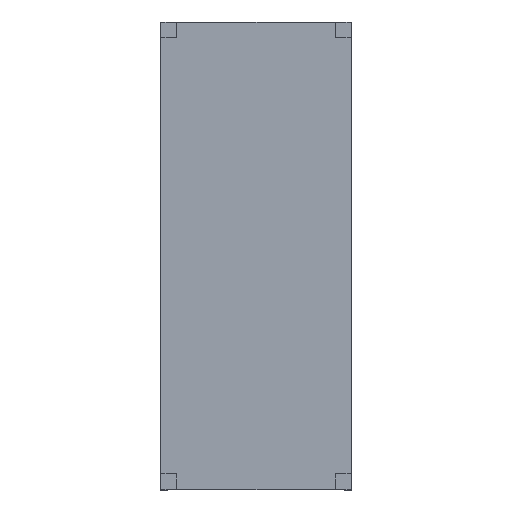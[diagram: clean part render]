
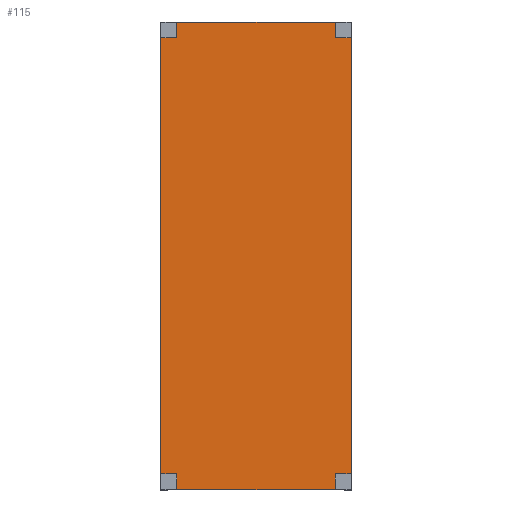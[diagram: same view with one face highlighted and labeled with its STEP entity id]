
A CAD part, top view. The second image highlights one B-rep face of the part: STEP entity #115.
In plain terms, the highlighted planar face has unit normal (0, 0, 1).
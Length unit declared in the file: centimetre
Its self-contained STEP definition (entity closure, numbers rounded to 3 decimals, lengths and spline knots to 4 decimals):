
#115=ADVANCED_FACE('',(#242),#2064,.T.);
#242=FACE_OUTER_BOUND('',#369,.T.);
#369=EDGE_LOOP('',(#496,#497,#498,#499,#500,#501,#502,#503,#504,#505,#506,
#507));
#496=ORIENTED_EDGE('',*,*,#1098,.T.);
#497=ORIENTED_EDGE('',*,*,#1095,.F.);
#498=ORIENTED_EDGE('',*,*,#1104,.F.);
#499=ORIENTED_EDGE('',*,*,#1100,.F.);
#500=ORIENTED_EDGE('',*,*,#1105,.T.);
#501=ORIENTED_EDGE('',*,*,#1097,.T.);
#502=ORIENTED_EDGE('',*,*,#1101,.T.);
#503=ORIENTED_EDGE('',*,*,#1091,.F.);
#504=ORIENTED_EDGE('',*,*,#1102,.F.);
#505=ORIENTED_EDGE('',*,*,#1099,.T.);
#506=ORIENTED_EDGE('',*,*,#1103,.T.);
#507=ORIENTED_EDGE('',*,*,#1093,.T.);
#1091=EDGE_CURVE('',#1791,#1805,#1617,.T.);
#1093=EDGE_CURVE('',#1793,#1798,#1619,.T.);
#1095=EDGE_CURVE('',#1795,#1799,#1621,.T.);
#1097=EDGE_CURVE('',#1797,#1804,#1623,.T.);
#1098=EDGE_CURVE('',#1798,#1799,#1624,.T.);
#1099=EDGE_CURVE('',#1800,#1801,#1625,.T.);
#1100=EDGE_CURVE('',#1802,#1803,#1626,.T.);
#1101=EDGE_CURVE('',#1804,#1805,#1627,.T.);
#1102=EDGE_CURVE('',#1800,#1791,#1628,.T.);
#1103=EDGE_CURVE('',#1801,#1793,#1629,.T.);
#1104=EDGE_CURVE('',#1803,#1795,#1630,.T.);
#1105=EDGE_CURVE('',#1802,#1797,#1631,.T.);
#1617=B_SPLINE_CURVE_WITH_KNOTS('',1,(#2363,#2364),.UNSPECIFIED.,.F.,.F.,
(2,2),(-75.,-1.),.UNSPECIFIED.);
#1619=B_SPLINE_CURVE_WITH_KNOTS('',1,(#2367,#2368),.UNSPECIFIED.,.F.,.F.,
(2,2),(-75.,-1.),.UNSPECIFIED.);
#1621=B_SPLINE_CURVE_WITH_KNOTS('',1,(#2371,#2372),.UNSPECIFIED.,.F.,.F.,
(2,2),(-75.,-1.),.UNSPECIFIED.);
#1623=B_SPLINE_CURVE_WITH_KNOTS('',1,(#2375,#2376),.UNSPECIFIED.,.F.,.F.,
(2,2),(-75.,-1.),.UNSPECIFIED.);
#1624=B_SPLINE_CURVE_WITH_KNOTS('',1,(#2377,#2378),.UNSPECIFIED.,.F.,.F.,
(2,2),(0.,205.),.UNSPECIFIED.);
#1625=B_SPLINE_CURVE_WITH_KNOTS('',1,(#2379,#2380),.UNSPECIFIED.,.F.,.F.,
(2,2),(0.,74.7754),.UNSPECIFIED.);
#1626=B_SPLINE_CURVE_WITH_KNOTS('',1,(#2381,#2382),.UNSPECIFIED.,.F.,.F.,
(2,2),(0.,74.7754),.UNSPECIFIED.);
#1627=B_SPLINE_CURVE_WITH_KNOTS('',1,(#2383,#2384),.UNSPECIFIED.,.F.,.F.,
(2,2),(0.,205.),.UNSPECIFIED.);
#1628=B_SPLINE_CURVE_WITH_KNOTS('',1,(#2385,#2386),.UNSPECIFIED.,.F.,.F.,
(2,2),(-149.,-75.),.UNSPECIFIED.);
#1629=B_SPLINE_CURVE_WITH_KNOTS('',1,(#2387,#2388),.UNSPECIFIED.,.F.,.F.,
(2,2),(-149.,-75.),.UNSPECIFIED.);
#1630=B_SPLINE_CURVE_WITH_KNOTS('',1,(#2389,#2390),.UNSPECIFIED.,.F.,.F.,
(2,2),(-149.,-75.),.UNSPECIFIED.);
#1631=B_SPLINE_CURVE_WITH_KNOTS('',1,(#2391,#2392),.UNSPECIFIED.,.F.,.F.,
(2,2),(-149.,-75.),.UNSPECIFIED.);
#1791=VERTEX_POINT('',#2322);
#1793=VERTEX_POINT('',#2324);
#1795=VERTEX_POINT('',#2326);
#1797=VERTEX_POINT('',#2328);
#1798=VERTEX_POINT('',#2329);
#1799=VERTEX_POINT('',#2330);
#1800=VERTEX_POINT('',#2331);
#1801=VERTEX_POINT('',#2332);
#1802=VERTEX_POINT('',#2333);
#1803=VERTEX_POINT('',#2334);
#1804=VERTEX_POINT('',#2335);
#1805=VERTEX_POINT('',#2336);
#2064=PLANE('',#2119);
#2119=AXIS2_PLACEMENT_3D('',#2307,#2213,$);
#2213=DIRECTION('',(0.,0.,1.));
#2307=CARTESIAN_POINT('',(89.7754,220.,0.));
#2322=CARTESIAN_POINT('',(7.5,7.5,0.));
#2324=CARTESIAN_POINT('',(82.2754,7.5,0.));
#2326=CARTESIAN_POINT('',(82.2754,212.5,0.));
#2328=CARTESIAN_POINT('',(7.5,212.5,0.));
#2329=CARTESIAN_POINT('',(89.6754,7.5,0.));
#2330=CARTESIAN_POINT('',(89.6754,212.5,0.));
#2331=CARTESIAN_POINT('',(7.5,0.1,0.));
#2332=CARTESIAN_POINT('',(82.2754,0.1,0.));
#2333=CARTESIAN_POINT('',(7.5,219.9,0.));
#2334=CARTESIAN_POINT('',(82.2754,219.9,0.));
#2335=CARTESIAN_POINT('',(0.1,212.5,0.));
#2336=CARTESIAN_POINT('',(0.1,7.5,0.));
#2363=CARTESIAN_POINT('',(7.5,7.5,0.));
#2364=CARTESIAN_POINT('',(0.1,7.5,0.));
#2367=CARTESIAN_POINT('',(82.2754,7.5,0.));
#2368=CARTESIAN_POINT('',(89.6754,7.5,0.));
#2371=CARTESIAN_POINT('',(82.2754,212.5,0.));
#2372=CARTESIAN_POINT('',(89.6754,212.5,0.));
#2375=CARTESIAN_POINT('',(7.5,212.5,0.));
#2376=CARTESIAN_POINT('',(0.1,212.5,0.));
#2377=CARTESIAN_POINT('',(89.6754,7.5,0.));
#2378=CARTESIAN_POINT('',(89.6754,212.5,0.));
#2379=CARTESIAN_POINT('',(7.5,0.1,0.));
#2380=CARTESIAN_POINT('',(82.2754,0.1,0.));
#2381=CARTESIAN_POINT('',(7.5,219.9,0.));
#2382=CARTESIAN_POINT('',(82.2754,219.9,0.));
#2383=CARTESIAN_POINT('',(0.1,212.5,0.));
#2384=CARTESIAN_POINT('',(0.1,7.5,0.));
#2385=CARTESIAN_POINT('',(7.5,0.1,0.));
#2386=CARTESIAN_POINT('',(7.5,7.5,0.));
#2387=CARTESIAN_POINT('',(82.2754,0.1,0.));
#2388=CARTESIAN_POINT('',(82.2754,7.5,0.));
#2389=CARTESIAN_POINT('',(82.2754,219.9,0.));
#2390=CARTESIAN_POINT('',(82.2754,212.5,0.));
#2391=CARTESIAN_POINT('',(7.5,219.9,0.));
#2392=CARTESIAN_POINT('',(7.5,212.5,0.));
